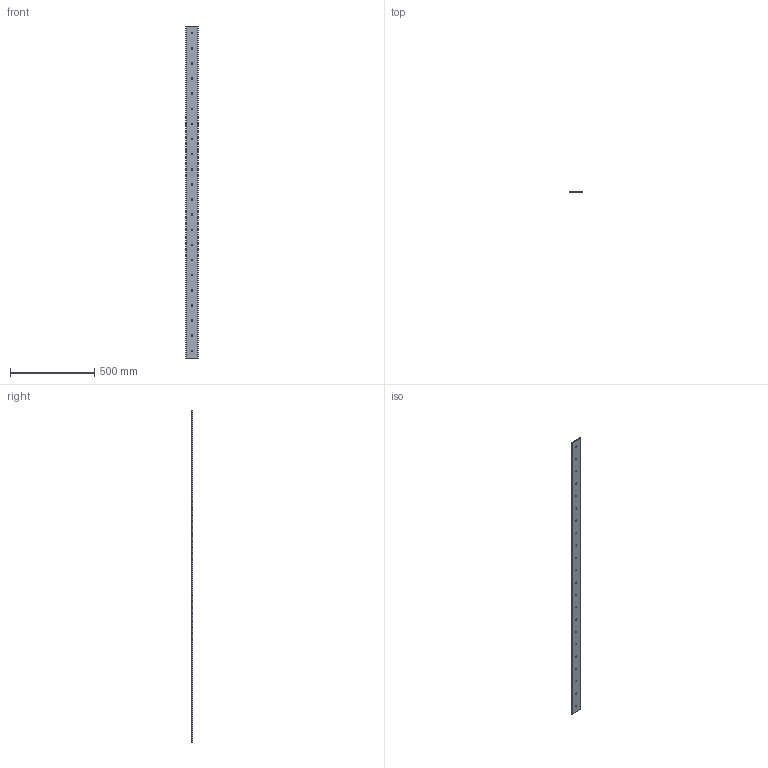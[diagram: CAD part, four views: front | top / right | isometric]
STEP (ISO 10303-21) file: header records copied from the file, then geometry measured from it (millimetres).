
FILE_DESCRIPTION(('STEP AP203'),'1');
FILE_NAME('slide_m76l1976p3.stp','2022-07-04T02:20:09',('TraceParts'),('TraceParts S.A.'),'Spatial InterOp 3D',' ',' ');
FILE_SCHEMA(('CONFIG_CONTROL_DESIGN'));
Length unit declared in the file: millimetre
Products named in the file (1): 1
Bounding box: 76.45 x 6.42 x 1976 mm (x, y, z)
Volume: 915962.9 mm3; surface area: 313913.9 mm2
Topology: 1 solids, 1 shells, 56 faces, 162 edges, 108 vertices
Faces by surface type: cylinder 48, plane 8
Entity records: 2034 total; most frequent: DIRECTION 372, CARTESIAN_POINT 327, ORIENTED_EDGE 324, EDGE_CURVE 162, AXIS2_PLACEMENT_3D 153, VERTEX_POINT 108, EDGE_LOOP 100, CIRCLE 96
